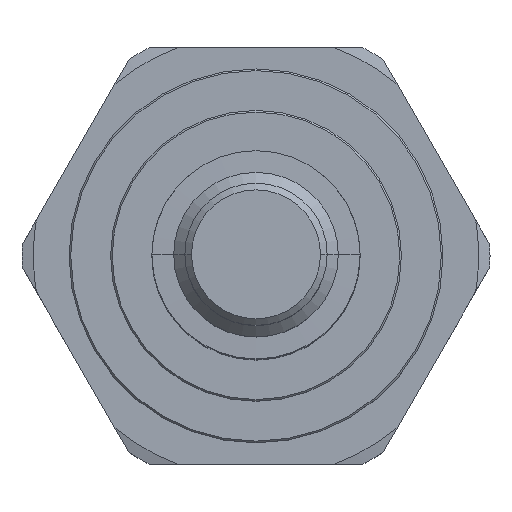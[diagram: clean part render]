
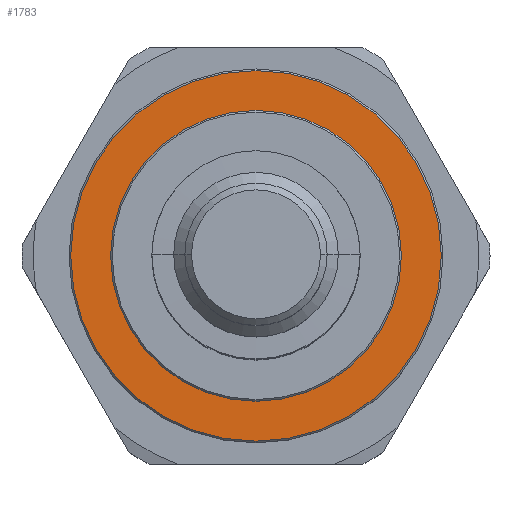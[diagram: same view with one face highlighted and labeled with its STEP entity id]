
A CAD part, top view. The second image highlights one B-rep face of the part: STEP entity #1783.
In plain terms, the highlighted planar face has unit normal (0, 0, 1).
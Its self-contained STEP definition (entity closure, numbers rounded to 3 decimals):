
#47=CARTESIAN_POINT('',(0.,0.,10.77));
#48=DIRECTION('',(0.,0.,-1.));
#49=DIRECTION('',(1.,0.,0.));
#50=AXIS2_PLACEMENT_3D('',#47,#48,#49);
#52=CARTESIAN_POINT('',(0.,0.,10.77));
#53=DIRECTION('',(0.,0.,-1.));
#54=DIRECTION('',(-1.,0.,0.));
#55=AXIS2_PLACEMENT_3D('',#52,#53,#54);
#57=CARTESIAN_POINT('',(0.,0.,10.77));
#58=DIRECTION('',(0.,0.,1.));
#59=DIRECTION('',(1.,0.,0.));
#60=AXIS2_PLACEMENT_3D('',#57,#58,#59);
#62=CARTESIAN_POINT('',(0.,0.,10.77));
#63=DIRECTION('',(0.,0.,1.));
#64=DIRECTION('',(-1.,0.,0.));
#65=AXIS2_PLACEMENT_3D('',#62,#63,#64);
#1385=CARTESIAN_POINT('',(11.087,0.,10.77));
#1386=VERTEX_POINT('',#1385);
#1387=CARTESIAN_POINT('',(-11.087,0.,10.77));
#1388=VERTEX_POINT('',#1387);
#1389=CARTESIAN_POINT('',(14.129,0.,10.77));
#1390=CARTESIAN_POINT('',(-14.129,0.,10.77));
#1391=VERTEX_POINT('',#1389);
#1392=VERTEX_POINT('',#1390);
#1768=CARTESIAN_POINT('',(0.,0.,10.77));
#1769=DIRECTION('',(0.,0.,1.));
#1770=DIRECTION('',(1.,0.,0.));
#1771=AXIS2_PLACEMENT_3D('',#1768,#1769,#1770);
#1772=PLANE('',#1771);
#1774=ORIENTED_EDGE('',*,*,#1773,.T.);
#1776=ORIENTED_EDGE('',*,*,#1775,.T.);
#1777=EDGE_LOOP('',(#1774,#1776));
#1778=FACE_OUTER_BOUND('',#1777,.F.);
#1779=ORIENTED_EDGE('',*,*,#1762,.T.);
#1780=ORIENTED_EDGE('',*,*,#1748,.T.);
#1781=EDGE_LOOP('',(#1779,#1780));
#1782=FACE_BOUND('',#1781,.F.);
#1783=ADVANCED_FACE('',(#1778,#1782),#1772,.T.);
#51=CIRCLE('',#50,14.129);
#56=CIRCLE('',#55,14.129);
#61=CIRCLE('',#60,11.087);
#66=CIRCLE('',#65,11.087);
#1748=EDGE_CURVE('',#1388,#1386,#66,.T.);
#1762=EDGE_CURVE('',#1386,#1388,#61,.T.);
#1773=EDGE_CURVE('',#1391,#1392,#51,.T.);
#1775=EDGE_CURVE('',#1392,#1391,#56,.T.);
